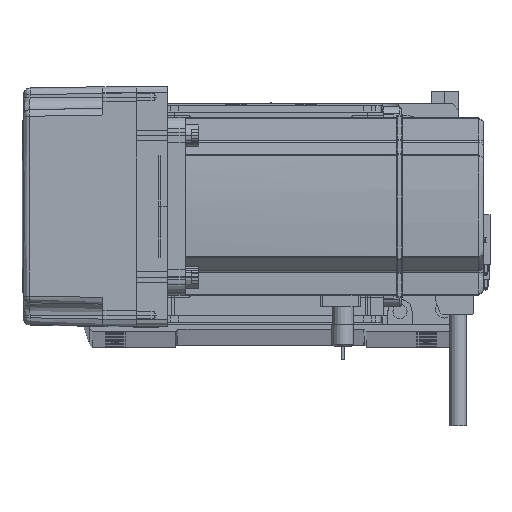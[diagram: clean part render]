
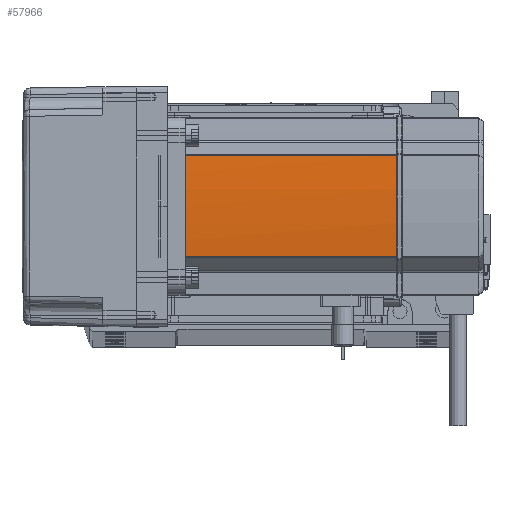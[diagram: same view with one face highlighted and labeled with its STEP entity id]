
A CAD part, top view. The second image highlights one B-rep face of the part: STEP entity #57966.
In plain terms, the highlighted cylindrical face has radius 270 mm (diameter 540 mm), a partial arc.
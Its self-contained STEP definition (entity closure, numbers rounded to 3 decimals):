
#4569 = CARTESIAN_POINT ( 'NONE',  ( 39.042, -22.724, 58. ) ) ;
#4731 = CARTESIAN_POINT ( 'NONE',  ( 39.042, 22.724, 134. ) ) ;
#4917 = VERTEX_POINT ( 'NONE', #64985 ) ;
#5397 = DIRECTION ( 'NONE',  ( -1., 0., 0. ) ) ;
#7303 = EDGE_CURVE ( 'NONE', #4917, #59776, #10653, .T. ) ;
#7738 = VECTOR ( 'NONE', #66961, 1000. ) ;
#7823 = CARTESIAN_POINT ( 'NONE',  ( 39.042, 22.724, 58. ) ) ;
#8012 = ORIENTED_EDGE ( 'NONE', *, *, #34369, .T. ) ;
#9577 = EDGE_CURVE ( 'NONE', #29753, #59776, #40677, .T. ) ;
#9667 = CARTESIAN_POINT ( 'NONE',  ( -230., 0., 134. ) ) ;
#10653 = CIRCLE ( 'NONE', #51461, 270. ) ;
#14883 = AXIS2_PLACEMENT_3D ( 'NONE', #25737, #63405, #30666 ) ;
#16747 = B_SPLINE_CURVE_WITH_KNOTS ( 'NONE', 3,
 ( #48732, #54179, #27312, #22101 ),
 .UNSPECIFIED., .F., .F.,
 ( 4, 4 ),
 ( 0., 1. ),
 .UNSPECIFIED. ) ;
#17491 = ORIENTED_EDGE ( 'NONE', *, *, #59858, .T. ) ;
#18569 = VERTEX_POINT ( 'NONE', #37414 ) ;
#19181 = EDGE_CURVE ( 'NONE', #34523, #18569, #55406, .T. ) ;
#20327 = FACE_OUTER_BOUND ( 'NONE', #61505, .T. ) ;
#21836 = CARTESIAN_POINT ( 'NONE',  ( -230., 0., 39. ) ) ;
#22101 = CARTESIAN_POINT ( 'NONE',  ( 40., 0.127, 134. ) ) ;
#22199 = AXIS2_PLACEMENT_3D ( 'NONE', #52832, #69101, #36825 ) ;
#23859 = VECTOR ( 'NONE', #62965, 1000. ) ;
#25737 = CARTESIAN_POINT ( 'NONE',  ( -230., 0., 134. ) ) ;
#25776 = ORIENTED_EDGE ( 'NONE', *, *, #7303, .F. ) ;
#27312 = CARTESIAN_POINT ( 'NONE',  ( 40., 0.042, 134. ) ) ;
#28168 = ORIENTED_EDGE ( 'NONE', *, *, #58418, .F. ) ;
#28570 = CARTESIAN_POINT ( 'NONE',  ( 40., -0.127, 134. ) ) ;
#29753 = VERTEX_POINT ( 'NONE', #59043 ) ;
#30666 = DIRECTION ( 'NONE',  ( -1., 0., 0. ) ) ;
#34369 = EDGE_CURVE ( 'NONE', #4917, #34523, #47347, .T. ) ;
#34523 = VERTEX_POINT ( 'NONE', #4731 ) ;
#35284 = VERTEX_POINT ( 'NONE', #28570 ) ;
#36055 = ORIENTED_EDGE ( 'NONE', *, *, #9577, .T. ) ;
#36825 = DIRECTION ( 'NONE',  ( -1., 0., 0. ) ) ;
#37414 = CARTESIAN_POINT ( 'NONE',  ( 40., 0.127, 134. ) ) ;
#37650 = DIRECTION ( 'NONE',  ( 0., 0., -1. ) ) ;
#40677 = LINE ( 'NONE', #4569, #23859 ) ;
#43924 = CYLINDRICAL_SURFACE ( 'NONE', #22199, 270. ) ;
#44581 = CIRCLE ( 'NONE', #68589, 270. ) ;
#47347 = LINE ( 'NONE', #7823, #7738 ) ;
#47559 = DIRECTION ( 'NONE',  ( -1., 0., 0. ) ) ;
#48278 = ORIENTED_EDGE ( 'NONE', *, *, #19181, .T. ) ;
#48732 = CARTESIAN_POINT ( 'NONE',  ( 40., -0.127, 134. ) ) ;
#51461 = AXIS2_PLACEMENT_3D ( 'NONE', #21836, #37650, #5397 ) ;
#51595 = CARTESIAN_POINT ( 'NONE',  ( 39.042, -22.724, 39. ) ) ;
#52832 = CARTESIAN_POINT ( 'NONE',  ( -230., 0., 58. ) ) ;
#54179 = CARTESIAN_POINT ( 'NONE',  ( 40., -0.042, 134. ) ) ;
#55406 = CIRCLE ( 'NONE', #14883, 270. ) ;
#57966 = ADVANCED_FACE ( 'NONE', ( #20327 ), #43924, .T. ) ;
#58418 = EDGE_CURVE ( 'NONE', #35284, #18569, #16747, .T. ) ;
#59043 = CARTESIAN_POINT ( 'NONE',  ( 39.042, -22.724, 134. ) ) ;
#59776 = VERTEX_POINT ( 'NONE', #51595 ) ;
#59858 = EDGE_CURVE ( 'NONE', #35284, #29753, #44581, .T. ) ;
#61505 = EDGE_LOOP ( 'NONE', ( #36055, #25776, #8012, #48278, #28168, #17491 ) ) ;
#62965 = DIRECTION ( 'NONE',  ( 0., 0., -1. ) ) ;
#63405 = DIRECTION ( 'NONE',  ( 0., 0., -1. ) ) ;
#63811 = DIRECTION ( 'NONE',  ( 0., 0., -1. ) ) ;
#64985 = CARTESIAN_POINT ( 'NONE',  ( 39.042, 22.724, 39. ) ) ;
#66961 = DIRECTION ( 'NONE',  ( 0., 0., 1. ) ) ;
#68589 = AXIS2_PLACEMENT_3D ( 'NONE', #9667, #63811, #47559 ) ;
#69101 = DIRECTION ( 'NONE',  ( 0., 0., -1. ) ) ;
